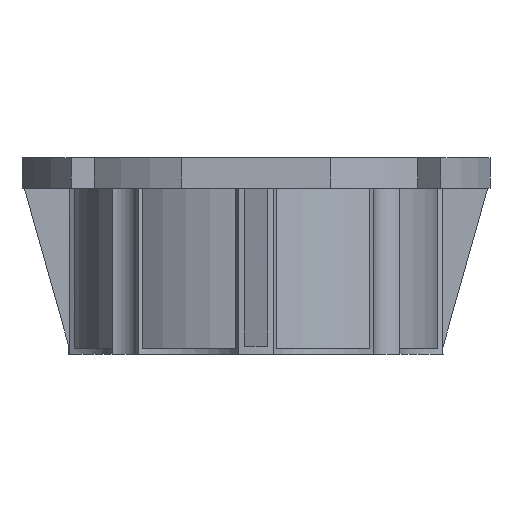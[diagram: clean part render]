
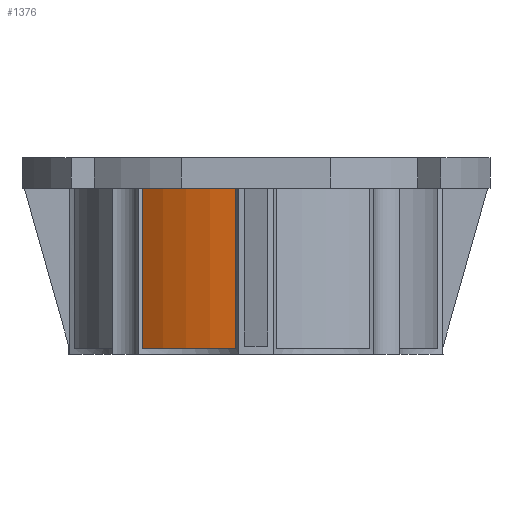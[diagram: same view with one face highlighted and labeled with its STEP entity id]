
A CAD part, left-side view. The second image highlights one B-rep face of the part: STEP entity #1376.
In plain terms, the highlighted cylindrical face has radius 78 mm (diameter 156 mm), a partial arc.
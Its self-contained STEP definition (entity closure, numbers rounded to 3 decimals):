
#1376=ADVANCED_FACE('',(#1562),#4116,.T.);
#1562=FACE_OUTER_BOUND('',#1740,.T.);
#1740=EDGE_LOOP('',(#2256,#2257,#2258,#2259));
#2256=ORIENTED_EDGE('',*,*,#2789,.T.);
#2257=ORIENTED_EDGE('',*,*,#2923,.T.);
#2258=ORIENTED_EDGE('',*,*,#2791,.T.);
#2259=ORIENTED_EDGE('',*,*,#2924,.T.);
#2789=EDGE_CURVE('',#3899,#3833,#3622,.T.);
#2791=EDGE_CURVE('',#3832,#3900,#3623,.T.);
#2923=EDGE_CURVE('',#3833,#3832,#3252,.T.);
#2924=EDGE_CURVE('',#3900,#3899,#3253,.T.);
#3252=TRIMMED_CURVE($,#3464,(#6448),(#6449),.T.,.CARTESIAN.);
#3253=TRIMMED_CURVE($,#3465,(#6451),(#6452),.T.,.CARTESIAN.);
#3464=CIRCLE('',#4675,78.);
#3465=CIRCLE('',#4676,78.);
#3622=B_SPLINE_CURVE_WITH_KNOTS('',1,(#6106,#6107),.UNSPECIFIED.,.F.,.F.,
(2,2),(-68.5,0.),.UNSPECIFIED.);
#3623=B_SPLINE_CURVE_WITH_KNOTS('',1,(#6111,#6112),.UNSPECIFIED.,.F.,.F.,
(2,2),(-68.5,0.),.UNSPECIFIED.);
#3832=VERTEX_POINT('',#5721);
#3833=VERTEX_POINT('',#5722);
#3899=VERTEX_POINT('',#5788);
#3900=VERTEX_POINT('',#5789);
#4116=CYLINDRICAL_SURFACE('',#4463,78.);
#4463=AXIS2_PLACEMENT_3D('',#5425,#4838,$);
#4675=AXIS2_PLACEMENT_3D($,#6447,#5142,#5143);
#4676=AXIS2_PLACEMENT_3D($,#6450,#5144,#5145);
#4838=DIRECTION('',(1.,0.,0.));
#5142=DIRECTION('',(-1.,0.,0.));
#5143=DIRECTION('',(0.,0.112,0.994));
#5144=DIRECTION('',(1.,0.,0.));
#5145=DIRECTION('',(0.,0.623,0.782));
#5425=CARTESIAN_POINT('',(36.75,0.,0.));
#5721=CARTESIAN_POINT('',(71.,48.63,60.985));
#5722=CARTESIAN_POINT('',(71.,8.736,77.509));
#5788=CARTESIAN_POINT('',(2.5,8.736,77.509));
#5789=CARTESIAN_POINT('',(2.5,48.63,60.985));
#6106=CARTESIAN_POINT('',(2.5,8.736,77.509));
#6107=CARTESIAN_POINT('',(71.,8.736,77.509));
#6111=CARTESIAN_POINT('',(71.,48.63,60.985));
#6112=CARTESIAN_POINT('',(2.5,48.63,60.985));
#6447=CARTESIAN_POINT('',(71.,0.,0.));
#6448=CARTESIAN_POINT('',(71.,8.736,77.509));
#6449=CARTESIAN_POINT('',(71.,48.63,60.985));
#6450=CARTESIAN_POINT('',(2.5,0.,0.));
#6451=CARTESIAN_POINT('',(2.5,48.63,60.985));
#6452=CARTESIAN_POINT('',(2.5,8.736,77.509));
